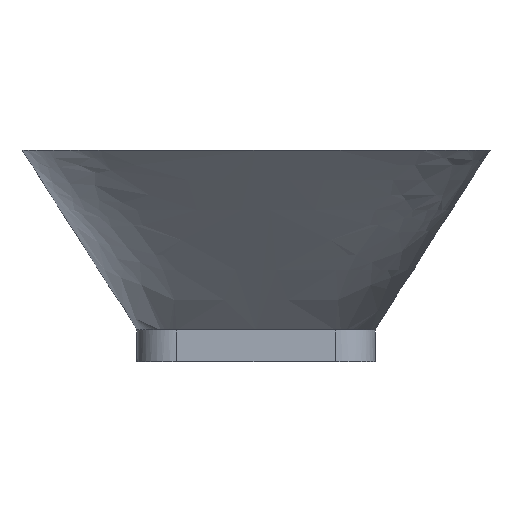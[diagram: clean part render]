
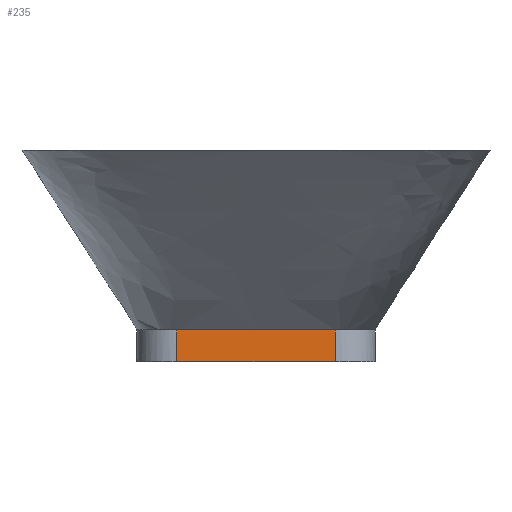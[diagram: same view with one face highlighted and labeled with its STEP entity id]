
A CAD part, front view. The second image highlights one B-rep face of the part: STEP entity #235.
In plain terms, the highlighted planar face has unit normal (0, -1, 0).
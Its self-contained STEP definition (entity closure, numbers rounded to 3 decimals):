
#37=LINE('',#918,#53);
#38=LINE('',#931,#54);
#39=LINE('',#933,#55);
#53=VECTOR('',#308,10.);
#54=VECTOR('',#311,10.);
#55=VECTOR('',#312,10.);
#70=FACE_OUTER_BOUND('',#86,.T.);
#86=EDGE_LOOP('',(#184,#185,#186,#187,#188));
#98=B_SPLINE_CURVE_WITH_KNOTS('',3,(#921,#922,#923,#924,#925,#926,#927,
#928,#929),.UNSPECIFIED.,.F.,.F.,(4,1,1,1,2,4),(0.875,0.887,
0.9,0.912,0.925,1.),.UNSPECIFIED.);
#99=B_SPLINE_CURVE_WITH_KNOTS('',3,(#934,#935,#936,#937,#938,#939,#940,
#941,#942),.UNSPECIFIED.,.F.,.F.,(4,2,1,1,1,4),(0.,0.075,0.088,
0.1,0.113,0.125),.UNSPECIFIED.);
#116=VERTEX_POINT('',#897);
#118=VERTEX_POINT('',#916);
#119=VERTEX_POINT('',#920);
#120=VERTEX_POINT('',#930);
#121=VERTEX_POINT('',#932);
#143=EDGE_CURVE('',#116,#118,#37,.T.);
#144=EDGE_CURVE('',#116,#119,#98,.T.);
#145=EDGE_CURVE('',#120,#118,#38,.T.);
#146=EDGE_CURVE('',#121,#120,#39,.T.);
#147=EDGE_CURVE('',#119,#121,#99,.T.);
#184=ORIENTED_EDGE('',*,*,#144,.F.);
#185=ORIENTED_EDGE('',*,*,#143,.T.);
#186=ORIENTED_EDGE('',*,*,#145,.F.);
#187=ORIENTED_EDGE('',*,*,#146,.F.);
#188=ORIENTED_EDGE('',*,*,#147,.F.);
#225=PLANE('',#268);
#235=ADVANCED_FACE('',(#70),#225,.T.);
#268=AXIS2_PLACEMENT_3D('',#919,#309,#310);
#308=DIRECTION('',(0.,0.,-1.));
#309=DIRECTION('center_axis',(0.,-1.,0.));
#310=DIRECTION('ref_axis',(-1.,0.,0.));
#311=DIRECTION('',(-1.,0.,0.));
#312=DIRECTION('',(0.,0.,-1.));
#897=CARTESIAN_POINT('',(-50.,-71.273,9.354));
#916=CARTESIAN_POINT('',(-50.,-71.273,-10.646));
#918=CARTESIAN_POINT('',(-50.,-71.273,9.354));
#919=CARTESIAN_POINT('Origin',(50.,-71.273,9.354));
#920=CARTESIAN_POINT('',(0.,-71.273,9.354));
#921=CARTESIAN_POINT('Ctrl Pts',(-50.,-71.274,9.354));
#922=CARTESIAN_POINT('Ctrl Pts',(-48.341,-71.274,9.354));
#923=CARTESIAN_POINT('Ctrl Pts',(-45.022,-71.274,9.354));
#924=CARTESIAN_POINT('Ctrl Pts',(-40.045,-71.273,9.354));
#925=CARTESIAN_POINT('Ctrl Pts',(-35.067,-71.273,9.354));
#926=CARTESIAN_POINT('Ctrl Pts',(-31.749,-71.273,9.354));
#927=CARTESIAN_POINT('Ctrl Pts',(-20.06,-71.273,9.354));
#928=CARTESIAN_POINT('Ctrl Pts',(-10.03,-71.273,9.354));
#929=CARTESIAN_POINT('Ctrl Pts',(0.,-71.273,
9.354));
#930=CARTESIAN_POINT('',(50.,-71.273,-10.646));
#931=CARTESIAN_POINT('',(-50.,-71.273,-10.646));
#932=CARTESIAN_POINT('',(50.,-71.273,9.354));
#933=CARTESIAN_POINT('',(50.,-71.273,9.354));
#934=CARTESIAN_POINT('Ctrl Pts',(0.,-71.273,9.354));
#935=CARTESIAN_POINT('Ctrl Pts',(10.03,-71.273,9.354));
#936=CARTESIAN_POINT('Ctrl Pts',(20.06,-71.273,9.354));
#937=CARTESIAN_POINT('Ctrl Pts',(31.749,-71.273,9.354));
#938=CARTESIAN_POINT('Ctrl Pts',(35.067,-71.273,9.354));
#939=CARTESIAN_POINT('Ctrl Pts',(40.045,-71.273,9.354));
#940=CARTESIAN_POINT('Ctrl Pts',(45.022,-71.274,9.354));
#941=CARTESIAN_POINT('Ctrl Pts',(48.341,-71.274,9.354));
#942=CARTESIAN_POINT('Ctrl Pts',(50.,-71.274,9.354));
